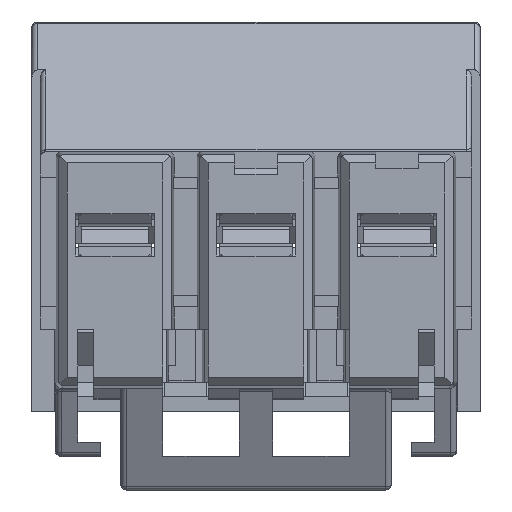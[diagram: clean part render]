
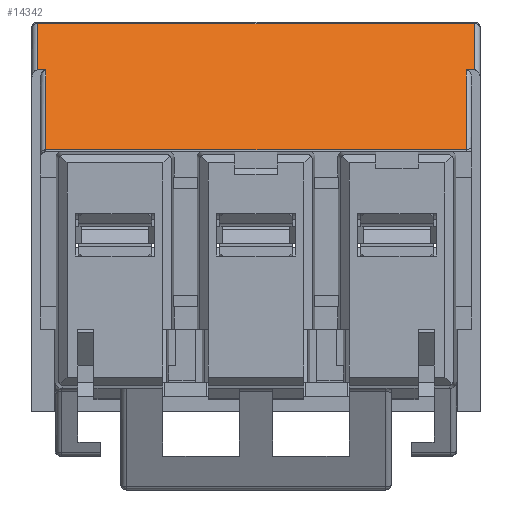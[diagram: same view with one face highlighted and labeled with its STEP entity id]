
A CAD part, front view. The second image highlights one B-rep face of the part: STEP entity #14342.
In plain terms, the highlighted planar face has unit normal (0, -0.707, 0.707).
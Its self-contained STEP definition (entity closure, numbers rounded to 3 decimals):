
#548=DIRECTION('',(-1.,0.,0.));
#549=VECTOR('',#548,14.9);
#550=CARTESIAN_POINT('',(7.45,-2.836,3.264));
#551=LINE('',#550,#549);
#552=DIRECTION('',(0.,0.707,0.707));
#553=VECTOR('',#552,4.011);
#554=CARTESIAN_POINT('',(-7.45,-2.836,3.264));
#555=LINE('',#554,#553);
#556=DIRECTION('',(0.,0.707,0.707));
#557=VECTOR('',#556,2.321);
#558=CARTESIAN_POINT('',(7.75,0.,6.1));
#559=LINE('',#558,#557);
#671=DIRECTION('',(1.,0.,0.));
#672=VECTOR('',#671,0.3);
#673=CARTESIAN_POINT('',(-7.75,0.,6.1));
#674=LINE('',#673,#672);
#690=DIRECTION('',(0.,-0.707,-0.707));
#691=VECTOR('',#690,2.321);
#692=CARTESIAN_POINT('',(-7.75,1.641,7.741));
#693=LINE('',#692,#691);
#713=DIRECTION('',(-1.,0.,0.));
#714=VECTOR('',#713,15.5);
#715=CARTESIAN_POINT('',(7.75,1.641,7.741));
#716=LINE('',#715,#714);
#1401=DIRECTION('',(0.,0.707,0.707));
#1402=VECTOR('',#1401,4.011);
#1403=CARTESIAN_POINT('',(7.45,-2.836,3.264));
#1404=LINE('',#1403,#1402);
#1420=DIRECTION('',(1.,0.,0.));
#1421=VECTOR('',#1420,0.3);
#1422=CARTESIAN_POINT('',(7.45,0.,6.1));
#1423=LINE('',#1422,#1421);
#10752=CARTESIAN_POINT('',(-7.45,-2.836,3.264));
#10753=VERTEX_POINT('',#10752);
#10758=CARTESIAN_POINT('',(7.45,-2.836,
3.264));
#10759=VERTEX_POINT('',#10758);
#10760=CARTESIAN_POINT('',(-7.45,0.,6.1));
#10761=VERTEX_POINT('',#10760);
#10762=CARTESIAN_POINT('',(7.75,0.,6.1));
#10763=CARTESIAN_POINT('',(7.75,1.641,7.741));
#10764=VERTEX_POINT('',#10762);
#10765=VERTEX_POINT('',#10763);
#10954=CARTESIAN_POINT('',(7.45,0.,6.1));
#10955=VERTEX_POINT('',#10954);
#12902=CARTESIAN_POINT('',(-7.75,1.641,7.741));
#12903=VERTEX_POINT('',#12902);
#12904=CARTESIAN_POINT('',(-7.75,0.,6.1));
#12905=VERTEX_POINT('',#12904);
#14321=CARTESIAN_POINT('',(0.,-0.598,5.502));
#14322=DIRECTION('',(0.,0.707,-0.707));
#14323=DIRECTION('',(0.,-0.707,-0.707));
#14324=AXIS2_PLACEMENT_3D('',#14321,#14322,#14323);
#14325=PLANE('',#14324);
#14327=ORIENTED_EDGE('',*,*,#14326,.F.);
#14329=ORIENTED_EDGE('',*,*,#14328,.F.);
#14331=ORIENTED_EDGE('',*,*,#14330,.F.);
#14332=ORIENTED_EDGE('',*,*,#14314,.T.);
#14333=ORIENTED_EDGE('',*,*,#14276,.T.);
#14335=ORIENTED_EDGE('',*,*,#14334,.F.);
#14337=ORIENTED_EDGE('',*,*,#14336,.F.);
#14339=ORIENTED_EDGE('',*,*,#14338,.F.);
#14340=EDGE_LOOP('',(#14327,#14329,#14331,#14332,#14333,#14335,#14337,#14339));
#14341=FACE_OUTER_BOUND('',#14340,.F.);
#14342=ADVANCED_FACE('',(#14341),#14325,.F.);
#14276=EDGE_CURVE('',#10753,#10761,#555,.T.);
#14314=EDGE_CURVE('',#10759,#10753,#551,.T.);
#14326=EDGE_CURVE('',#10764,#10765,#559,.T.);
#14328=EDGE_CURVE('',#10955,#10764,#1423,.T.);
#14330=EDGE_CURVE('',#10759,#10955,#1404,.T.);
#14334=EDGE_CURVE('',#12905,#10761,#674,.T.);
#14336=EDGE_CURVE('',#12903,#12905,#693,.T.);
#14338=EDGE_CURVE('',#10765,#12903,#716,.T.);
